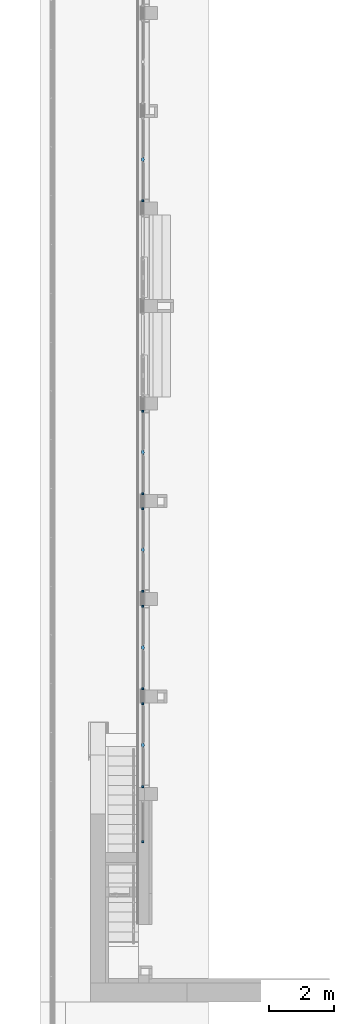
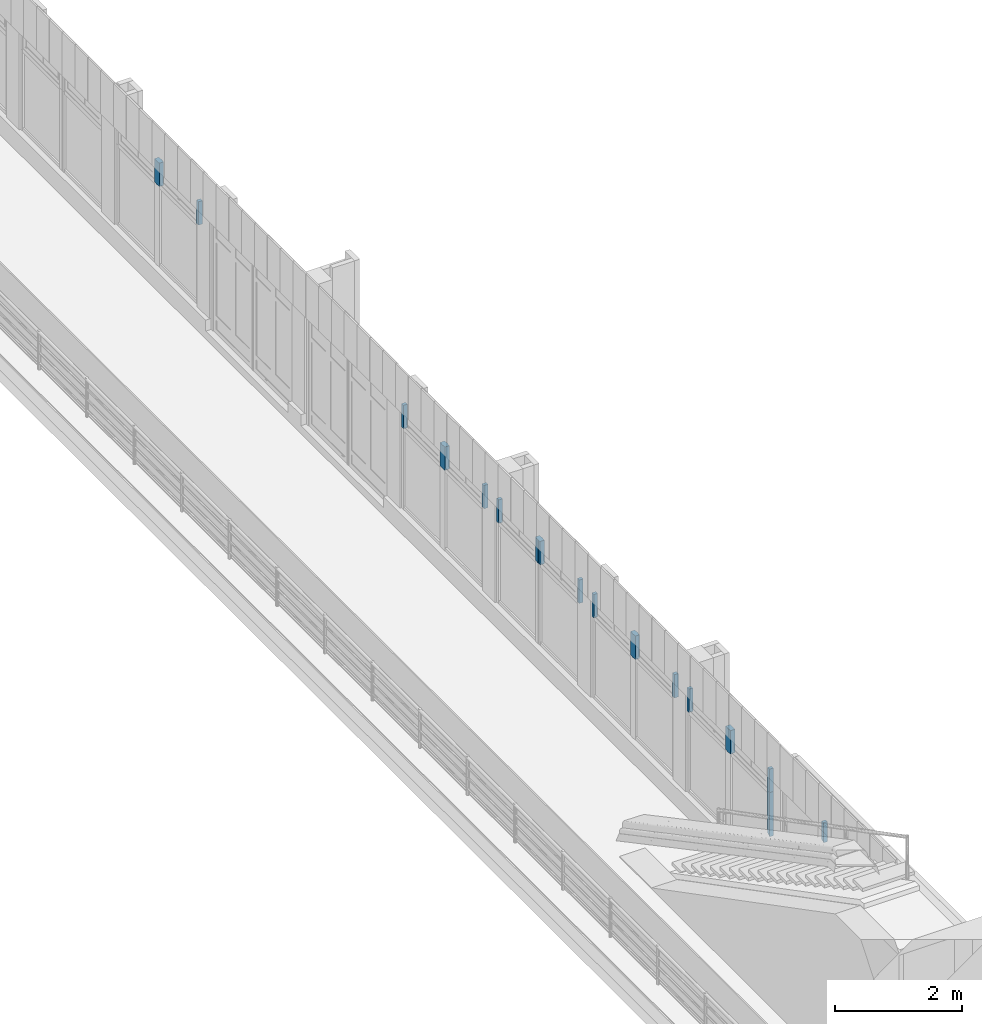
# One storey, part 5 of 16: 16 members, 6 elements without a shape of their own.
"""IFC2X3 building model written with IfcOpenShell, lengths in millimetres."""

from ifc_helpers import new_model, entity, si_unit, converted_unit, derived_unit, direction, frame, frame_2d, origin, place, context, subcontext, project, spatial, polyline, rectangle, outline, extrude, source, transform, mapped, material, type_object, type_shapes, element, aggregate, save


model = new_model("IFC2X3")

# Units and contexts
model_context = context("Model", 3, precision=0.01, world=origin(), true_north=direction((6.123031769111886e-17, 1.0)))
body_context = subcontext(model_context, "Body", "Model", "MODEL_VIEW")
ifc_project = project(units=[si_unit("LENGTHUNIT", "METRE", prefix="MILLI"), si_unit("AREAUNIT", "SQUARE_METRE"), si_unit("VOLUMEUNIT", "CUBIC_METRE"), converted_unit("PLANEANGLEUNIT", "DEGREE", entity("IfcPlaneAngleMeasure", 0.017453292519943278), si_unit("PLANEANGLEUNIT", "RADIAN"), dimensions=[0, 0, 0, 0, 0, 0, 0]), si_unit("MASSUNIT", "GRAM", prefix="KILO"), derived_unit("MASSDENSITYUNIT", [(si_unit("MASSUNIT", "GRAM", prefix="KILO"), 1), (si_unit("LENGTHUNIT", "METRE"), -3)]), derived_unit("IONCONCENTRATIONUNIT", [(si_unit("MASSUNIT", "GRAM", prefix="KILO"), 1), (si_unit("LENGTHUNIT", "METRE"), -3)]), derived_unit("MOMENTOFINERTIAUNIT", [(si_unit("LENGTHUNIT", "METRE"), 4)]), si_unit("TIMEUNIT", "SECOND"), si_unit("FREQUENCYUNIT", "HERTZ"), si_unit("THERMODYNAMICTEMPERATUREUNIT", "DEGREE_CELSIUS"), derived_unit("THERMALTRANSMITTANCEUNIT", [(si_unit("MASSUNIT", "GRAM", prefix="KILO"), 1), (si_unit("THERMODYNAMICTEMPERATUREUNIT", "KELVIN"), -1), (si_unit("TIMEUNIT", "SECOND"), -3)]), derived_unit("THERMALCONDUCTANCEUNIT", [(si_unit("MASSUNIT", "GRAM", prefix="KILO"), 1), (si_unit("THERMODYNAMICTEMPERATUREUNIT", "KELVIN"), -1), (si_unit("TIMEUNIT", "SECOND"), -3), (si_unit("LENGTHUNIT", "METRE"), 1)]), derived_unit("VOLUMETRICFLOWRATEUNIT", [(si_unit("LENGTHUNIT", "METRE", prefix="DECI"), 3), (si_unit("TIMEUNIT", "SECOND"), -1)]), derived_unit("MASSFLOWRATEUNIT", [(si_unit("MASSUNIT", "GRAM", prefix="KILO"), 1), (si_unit("TIMEUNIT", "SECOND"), -1)]), derived_unit("ROTATIONALFREQUENCYUNIT", [(si_unit("TIMEUNIT", "SECOND"), -1)]), si_unit("ELECTRICCURRENTUNIT", "AMPERE"), si_unit("ELECTRICVOLTAGEUNIT", "VOLT"), si_unit("POWERUNIT", "WATT"), si_unit("FORCEUNIT", "NEWTON", prefix="KILO"), si_unit("ILLUMINANCEUNIT", "LUX"), si_unit("LUMINOUSFLUXUNIT", "LUMEN"), si_unit("LUMINOUSINTENSITYUNIT", "CANDELA"), si_unit("ENERGYUNIT", "JOULE"), derived_unit("USERDEFINED", [(si_unit("MASSUNIT", "GRAM", prefix="KILO"), -1), (si_unit("LENGTHUNIT", "METRE"), -2), (si_unit("TIMEUNIT", "SECOND"), 3), (si_unit("LUMINOUSFLUXUNIT", "LUMEN"), 1)]), derived_unit("USERDEFINED", [(si_unit("MASSUNIT", "GRAM", prefix="KILO"), 1), (si_unit("TIMEUNIT", "SECOND"), -3), (si_unit("LENGTHUNIT", "METRE"), 3), (si_unit("ELECTRICCURRENTUNIT", "AMPERE"), -2)]), derived_unit("SOUNDPOWERUNIT", [(si_unit("MASSUNIT", "GRAM", prefix="KILO"), 1), (si_unit("TIMEUNIT", "SECOND"), -3), (si_unit("LENGTHUNIT", "METRE"), 2)]), derived_unit("SOUNDPRESSUREUNIT", [(si_unit("MASSUNIT", "GRAM", prefix="KILO"), 1), (si_unit("LENGTHUNIT", "METRE"), -1), (si_unit("TIMEUNIT", "SECOND"), -2)]), derived_unit("LINEARVELOCITYUNIT", [(si_unit("LENGTHUNIT", "METRE"), 1), (si_unit("TIMEUNIT", "SECOND"), -1)]), si_unit("PRESSUREUNIT", "PASCAL"), derived_unit("USERDEFINED", [(si_unit("MASSUNIT", "GRAM", prefix="KILO"), 1), (si_unit("LENGTHUNIT", "METRE"), -2), (si_unit("TIMEUNIT", "SECOND"), -2)]), derived_unit("LINEARFORCEUNIT", [(si_unit("MASSUNIT", "GRAM", prefix="KILO"), 1), (si_unit("TIMEUNIT", "SECOND"), -2)]), derived_unit("PLANARFORCEUNIT", [(si_unit("MASSUNIT", "GRAM", prefix="KILO"), 1), (si_unit("LENGTHUNIT", "METRE"), -1), (si_unit("TIMEUNIT", "SECOND"), -2)]), derived_unit("SPECIFICHEATCAPACITYUNIT", [(si_unit("THERMODYNAMICTEMPERATUREUNIT", "KELVIN"), -1), (si_unit("LENGTHUNIT", "METRE"), 2), (si_unit("TIMEUNIT", "SECOND"), -2)]), derived_unit("HEATFLUXDENSITYUNIT", [(si_unit("MASSUNIT", "GRAM", prefix="KILO"), 1), (si_unit("TIMEUNIT", "SECOND"), -3)]), derived_unit("HEATINGVALUEUNIT", [(si_unit("LENGTHUNIT", "METRE"), 2), (si_unit("TIMEUNIT", "SECOND"), -2)]), derived_unit("VAPORPERMEABILITYUNIT", [(si_unit("LENGTHUNIT", "METRE"), -1), (si_unit("TIMEUNIT", "SECOND"), 1)]), derived_unit("DYNAMICVISCOSITYUNIT", [(si_unit("MASSUNIT", "GRAM", prefix="KILO"), 1), (si_unit("TIMEUNIT", "SECOND"), -1), (si_unit("LENGTHUNIT", "METRE"), -1)]), derived_unit("THERMALEXPANSIONCOEFFICIENTUNIT", [(si_unit("THERMODYNAMICTEMPERATUREUNIT", "KELVIN"), -1)]), derived_unit("MODULUSOFELASTICITYUNIT", [(si_unit("MASSUNIT", "GRAM", prefix="KILO"), 1), (si_unit("LENGTHUNIT", "METRE"), -1), (si_unit("TIMEUNIT", "SECOND"), -2)]), derived_unit("ISOTHERMALMOISTURECAPACITYUNIT", [(si_unit("MASSUNIT", "GRAM", prefix="KILO"), -1), (si_unit("LENGTHUNIT", "METRE"), 3)]), derived_unit("MOISTUREDIFFUSIVITYUNIT", [(si_unit("TIMEUNIT", "SECOND"), -1), (si_unit("LENGTHUNIT", "METRE"), 2)]), derived_unit("MASSPERLENGTHUNIT", [(si_unit("MASSUNIT", "GRAM", prefix="KILO"), 1), (si_unit("LENGTHUNIT", "METRE"), -1)]), derived_unit("THERMALRESISTANCEUNIT", [(si_unit("MASSUNIT", "GRAM", prefix="KILO"), -1), (si_unit("TIMEUNIT", "SECOND"), 3), (si_unit("THERMODYNAMICTEMPERATUREUNIT", "KELVIN"), 1)]), derived_unit("ACCELERATIONUNIT", [(si_unit("LENGTHUNIT", "METRE"), 1), (si_unit("TIMEUNIT", "SECOND"), -2)]), derived_unit("ANGULARVELOCITYUNIT", [(si_unit("TIMEUNIT", "SECOND"), -1), (si_unit("PLANEANGLEUNIT", "RADIAN"), 1)]), derived_unit("LINEARSTIFFNESSUNIT", [(si_unit("MASSUNIT", "GRAM", prefix="KILO"), 1), (si_unit("TIMEUNIT", "SECOND"), -2)]), derived_unit("WARPINGCONSTANTUNIT", [(si_unit("LENGTHUNIT", "METRE"), 6)]), derived_unit("LINEARMOMENTUNIT", [(si_unit("MASSUNIT", "GRAM", prefix="KILO"), 1), (si_unit("LENGTHUNIT", "METRE"), 1), (si_unit("TIMEUNIT", "SECOND"), -2)]), derived_unit("TORQUEUNIT", [(si_unit("MASSUNIT", "GRAM", prefix="KILO"), 1), (si_unit("LENGTHUNIT", "METRE"), 2), (si_unit("TIMEUNIT", "SECOND"), -2)])], contexts=[model_context])

# Site, building, storey
site_placement = place(None, origin())
site = spatial("IfcSite", under=ifc_project, at=site_placement, Name="Default", CompositionType="ELEMENT")
building_placement = place(site_placement, origin())
building = spatial("IfcBuilding", under=site, at=building_placement, Name="Eesti Rahvusraamatukogu hoone renoveerimise projekteerimistööd", CompositionType="ELEMENT")
storey_placement = place(building_placement, frame((0.0, 0.0, 8250.000000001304)))
storey = spatial("IfcBuildingStorey", under=building, at=storey_placement, Name="3. korrus", CompositionType="ELEMENT", Elevation=8250.000000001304)

# Curtain wall, members
curtain_wall_type_1 = type_object("IfcCurtainWallType", Name="Curtain Wall:A-17", PredefinedType="NOTDEFINED")
curtain_wall_1_placement = place(storey_placement, frame((0.0, 0.0, -8250.000000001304)))
curtain_wall_1 = element("IfcCurtainWall", 1, at=curtain_wall_1_placement, inside=storey, type_object=curtain_wall_type_1, Name="Curtain Wall:A-17", ObjectType="Curtain Wall:A-17")
ifc_material = material(Name="LUMION_dark steel window frames")
member_type_1 = type_object("IfcMemberType", Name="Rectangular Mullion:NEW 150x90mm", PredefinedType="MULLION", material=ifc_material)
shared_shape_1 = source(origin(), body_context, "Body", "SweptSolid", [
    extrude(outline(polyline([(20.0, -40.0), (75.0, -40.0), (75.0, 40.0), (20.0, 40.0), (20.0, 45.0), (-20.0, 45.0), (-20.0, 40.0), (-75.0, 40.0), (-75.0, -40.0), (-20.0, -40.0), (-20.0, -45.0), (20.0, -45.0), (20.0, -40.0)])), frame((0.0, 0.0, -450.0), z_axis=(0.0, 0.0, 1.0), x_axis=(-1.0, 0.0, 0.0)), (0.0, 0.0, 1.0), 449.9999999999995),
])
type_shapes(member_type_1, [shared_shape_1])
member_1_placement = place(curtain_wall_1_placement, frame((-33635.0, 13890.0, 10400.000000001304), z_axis=(0.0, 0.0, -1.0), x_axis=(0.0, -1.0, 0.0)))
member_1 = element("IfcMember", 2, at=member_1_placement, type_object=member_type_1, material=ifc_material, Name="Rectangular Mullion:NEW 150x90mm", ObjectType="Rectangular Mullion:NEW 150x90mm", context=body_context, shape_type="MappedRepresentation", body=[
    mapped(shared_shape_1, transform((0.0, 0.0, 0.0), scale=1.0)),
])
member_type_2 = type_object("IfcMemberType", Name="Rectangular Mullion:NEW 60x70mm", PredefinedType="MULLION", material=ifc_material)
shared_shape_2 = source(origin(), body_context, "Body", "SweptSolid", [
    extrude(rectangle(XDim=60.0, YDim=70.0, at=frame_2d((0.0, 3.552713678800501e-15), x_axis=(1.0, 0.0))), frame((-30.0, 0.0, -450.0), z_axis=(0.0, 0.0, 1.0), x_axis=(-1.0, 0.0, 0.0)), (0.0, 0.0, 1.0), 449.9999999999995),
])
type_shapes(member_type_2, [shared_shape_2])
member_2_placement = place(curtain_wall_1_placement, frame((-33635.0, 12590.0, 10400.000000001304), z_axis=(0.0, 0.0, -1.0), x_axis=(0.0, -1.0, 0.0)))
member_2 = element("IfcMember", 3, at=member_2_placement, type_object=member_type_2, material=ifc_material, Name="Rectangular Mullion:NEW 60x70mm", ObjectType="Rectangular Mullion:NEW 60x70mm", context=body_context, shape_type="MappedRepresentation", body=[
    mapped(shared_shape_2, transform((0.0, 0.0, 0.0), scale=1.0)),
])
member_type_3 = type_object("IfcMemberType", Name="Rectangular Mullion:NEW 60x70mm", PredefinedType="MULLION", material=ifc_material)
shared_shape_3 = source(origin(), body_context, "Body", "SweptSolid", [
    extrude(outline(polyline([(-433.95941122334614, -30.0), (416.0405887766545, -30.0), (416.0405887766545, 30.0), (-398.121766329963, 30.0), (-433.95941122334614, -30.0)])), frame((-30.0, -35.0, -433.95941122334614), z_axis=(0.0, 1.0, 0.0), x_axis=(0.0, 0.0, -1.0)), (0.0, 0.0, 1.0), 69.99999999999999),
])
type_shapes(member_type_3, [shared_shape_3])
member_3_placement = place(curtain_wall_1_placement, frame((-33635.0, 12590.0, 9550.000000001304), z_axis=(0.0, 0.0, -1.0), x_axis=(0.0, -1.0, 0.0)))
member_3 = element("IfcMember", 4, at=member_3_placement, type_object=member_type_3, material=ifc_material, Name="Rectangular Mullion:NEW 60x70mm", ObjectType="Rectangular Mullion:NEW 60x70mm", context=body_context, shape_type="MappedRepresentation", body=[
    mapped(shared_shape_3, transform((0.0, 0.0, 0.0), scale=1.0)),
])
member_type_4 = type_object("IfcMemberType", Name="Rectangular Mullion:NEW 60x70mm", PredefinedType="MULLION", material=ifc_material)
shared_shape_4 = source(origin(), body_context, "Body", "SweptSolid", [
    extrude(rectangle(XDim=60.0, YDim=70.0, at=frame_2d((0.0, -3.552713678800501e-15), x_axis=(1.0, 0.0))), frame((-30.0, 0.0, -450.0), z_axis=(0.0, 0.0, 1.0), x_axis=(-1.0, 0.0, 0.0)), (0.0, 0.0, 1.0), 449.9999999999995),
])
type_shapes(member_type_4, [shared_shape_4])
member_4_placement = place(curtain_wall_1_placement, frame((-33635.0, 15190.0, 10850.000000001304), z_axis=(0.0, 0.0, 1.0), x_axis=(0.0, 1.0, 0.0)))
member_4 = element("IfcMember", 5, at=member_4_placement, type_object=member_type_4, material=ifc_material, Name="Rectangular Mullion:NEW 60x70mm", ObjectType="Rectangular Mullion:NEW 60x70mm", context=body_context, shape_type="MappedRepresentation", body=[
    mapped(shared_shape_4, transform((0.0, 0.0, 0.0), scale=1.0)),
])
aggregate(curtain_wall_1, [member_1, member_2, member_3, member_4])

# Curtain wall, member
curtain_wall_type_2 = type_object("IfcCurtainWallType", Name="Curtain Wall:A-18", PredefinedType="NOTDEFINED")
curtain_wall_2_placement = place(storey_placement, frame((0.0, 0.0, -8250.000000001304)))
curtain_wall_2 = element("IfcCurtainWall", 6, at=curtain_wall_2_placement, inside=storey, type_object=curtain_wall_type_2, Name="Curtain Wall:A-18", ObjectType="Curtain Wall:A-18")
member_type_5 = type_object("IfcMemberType", Name="Rectangular Mullion:NEW 60x70mm", PredefinedType="MULLION", material=ifc_material)
shared_shape_5 = source(origin(), body_context, "Body", "SweptSolid", [
    extrude(outline(polyline([(-201.2671035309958, -30.0), (183.34828108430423, -30.0), (183.34828108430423, 30.0), (-165.42945863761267, 30.0), (-201.2671035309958, -30.0)])), frame((-30.0, -35.0, -201.2671035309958), z_axis=(0.0, 1.0, 0.0), x_axis=(0.0, 0.0, -1.0)), (0.0, 0.0, 1.0), 70.00000000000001),
])
type_shapes(member_type_5, [shared_shape_5])
member_5_placement = place(curtain_wall_2_placement, frame((-33635.0, 10890.0, 10465.384615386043), z_axis=(0.0, 0.0, -1.0), x_axis=(0.0, -1.0, 0.0)))
member_5 = element("IfcMember", 7, at=member_5_placement, type_object=member_type_5, material=ifc_material, Name="Rectangular Mullion:NEW 60x70mm", ObjectType="Rectangular Mullion:NEW 60x70mm", context=body_context, shape_type="MappedRepresentation", body=[
    mapped(shared_shape_5, transform((0.0, 0.0, 0.0), scale=1.0)),
])
aggregate(curtain_wall_2, [member_5])

curtain_wall_type_3 = type_object("IfcCurtainWallType", Name="Curtain Wall:A-16", PredefinedType="NOTDEFINED")
curtain_wall_3_placement = place(storey_placement, frame((0.0, 0.0, -8250.000000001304)))
curtain_wall_3 = element("IfcCurtainWall", 8, at=curtain_wall_3_placement, inside=storey, type_object=curtain_wall_type_3, Name="Curtain Wall:A-16", ObjectType="Curtain Wall:A-16")
member_type_6 = type_object("IfcMemberType", Name="Rectangular Mullion:NEW 60x70mm", PredefinedType="MULLION", material=ifc_material)
shared_shape_6 = source(origin(), body_context, "Body", "SweptSolid", [
    extrude(rectangle(XDim=60.0, YDim=70.0, at=frame_2d((0.0, 3.552713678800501e-15), x_axis=(1.0, 0.0))), frame((-30.0, 0.0, -450.0), z_axis=(0.0, 0.0, 1.0), x_axis=(-1.0, 0.0, 0.0)), (0.0, 0.0, 1.0), 449.9999999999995),
])
type_shapes(member_type_6, [shared_shape_6])
member_6_placement = place(curtain_wall_3_placement, frame((-33635.0, 24190.0, 10850.000000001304), z_axis=(0.0, 0.0, 1.0), x_axis=(0.0, 1.0, 0.0)))
member_6 = element("IfcMember", 9, at=member_6_placement, type_object=member_type_6, material=ifc_material, Name="Rectangular Mullion:NEW 60x70mm", ObjectType="Rectangular Mullion:NEW 60x70mm", context=body_context, shape_type="MappedRepresentation", body=[
    mapped(shared_shape_6, transform((0.0, 0.0, 0.0), scale=1.0)),
])

curtain_wall_4_placement = place(storey_placement, frame((0.0, 0.0, -8250.000000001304)))
curtain_wall_4 = element("IfcCurtainWall", 10, at=curtain_wall_4_placement, inside=storey, type_object=curtain_wall_type_3, Name="Curtain Wall:A-16", ObjectType="Curtain Wall:A-16")
member_7_placement = place(curtain_wall_4_placement, frame((-33635.0, 21190.0, 10850.000000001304), z_axis=(0.0, 0.0, 1.0), x_axis=(0.0, 1.0, 0.0)))
member_7 = element("IfcMember", 11, at=member_7_placement, type_object=member_type_6, material=ifc_material, Name="Rectangular Mullion:NEW 60x70mm", ObjectType="Rectangular Mullion:NEW 60x70mm", context=body_context, shape_type="MappedRepresentation", body=[
    mapped(shared_shape_6, transform((0.0, 0.0, 0.0), scale=1.0)),
])

curtain_wall_5_placement = place(storey_placement, frame((0.0, 0.0, -8250.000000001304)))
curtain_wall_5 = element("IfcCurtainWall", 12, at=curtain_wall_5_placement, inside=storey, type_object=curtain_wall_type_3, Name="Curtain Wall:A-16", ObjectType="Curtain Wall:A-16")
member_8_placement = place(curtain_wall_5_placement, frame((-33635.0, 18190.0, 10850.000000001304), z_axis=(0.0, 0.0, 1.0), x_axis=(0.0, 1.0, 0.0)))
member_8 = element("IfcMember", 13, at=member_8_placement, type_object=member_type_6, material=ifc_material, Name="Rectangular Mullion:NEW 60x70mm", ObjectType="Rectangular Mullion:NEW 60x70mm", context=body_context, shape_type="MappedRepresentation", body=[
    mapped(shared_shape_6, transform((0.0, 0.0, 0.0), scale=1.0)),
])

# Member
member_type_7 = type_object("IfcMemberType", Name="Rectangular Mullion:NEW 60x70mm", PredefinedType="MULLION", material=ifc_material)
shared_shape_7 = source(origin(), body_context, "Body", "SweptSolid", [
    extrude(rectangle(XDim=60.0, YDim=70.0, at=frame_2d((0.0, 3.552713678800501e-15), x_axis=(1.0, 0.0))), frame((-30.0, 0.0, -450.0), z_axis=(0.0, 0.0, 1.0), x_axis=(-1.0, 0.0, 0.0)), (0.0, 0.0, 1.0), 449.9999999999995),
])
type_shapes(member_type_7, [shared_shape_7])
member_9_placement = place(curtain_wall_3_placement, frame((-33635.0, 21590.0, 10400.000000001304), z_axis=(0.0, 0.0, -1.0), x_axis=(0.0, -1.0, 0.0)))
member_9 = element("IfcMember", 14, at=member_9_placement, type_object=member_type_7, material=ifc_material, Name="Rectangular Mullion:NEW 60x70mm", ObjectType="Rectangular Mullion:NEW 60x70mm", context=body_context, shape_type="MappedRepresentation", body=[
    mapped(shared_shape_7, transform((0.0, 0.0, 0.0), scale=1.0)),
])

member_10_placement = place(curtain_wall_4_placement, frame((-33635.0, 18590.0, 10400.000000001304), z_axis=(0.0, 0.0, -1.0), x_axis=(0.0, -1.0, 0.0)))
member_10 = element("IfcMember", 15, at=member_10_placement, type_object=member_type_7, material=ifc_material, Name="Rectangular Mullion:NEW 60x70mm", ObjectType="Rectangular Mullion:NEW 60x70mm", context=body_context, shape_type="MappedRepresentation", body=[
    mapped(shared_shape_7, transform((0.0, 0.0, 0.0), scale=1.0)),
])

member_11_placement = place(curtain_wall_5_placement, frame((-33635.0, 15590.0, 10400.000000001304), z_axis=(0.0, 0.0, -1.0), x_axis=(0.0, -1.0, 0.0)))
member_11 = element("IfcMember", 16, at=member_11_placement, type_object=member_type_7, material=ifc_material, Name="Rectangular Mullion:NEW 60x70mm", ObjectType="Rectangular Mullion:NEW 60x70mm", context=body_context, shape_type="MappedRepresentation", body=[
    mapped(shared_shape_7, transform((0.0, 0.0, 0.0), scale=1.0)),
])

member_type_8 = type_object("IfcMemberType", Name="Rectangular Mullion:NEW 150x90mm", PredefinedType="MULLION", material=ifc_material)
shared_shape_8 = source(origin(), body_context, "Body", "SweptSolid", [
    extrude(outline(polyline([(20.0, -40.0), (75.0, -40.0), (75.0, 40.0), (20.0, 40.0), (20.0, 45.0), (-20.0, 45.0), (-20.0, 40.0), (-75.0, 40.0), (-75.0, -40.0), (-20.0, -40.0), (-20.0, -45.0), (20.0, -45.0), (20.0, -40.0)])), frame((0.0, 0.0, -450.0), z_axis=(0.0, 0.0, 1.0), x_axis=(-1.0, 0.0, 0.0)), (0.0, 0.0, 1.0), 449.9999999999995),
])
type_shapes(member_type_8, [shared_shape_8])
member_12_placement = place(curtain_wall_3_placement, frame((-33635.0, 22890.0, 10400.000000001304), z_axis=(0.0, 0.0, -1.0), x_axis=(0.0, -1.0, 0.0)))
member_12 = element("IfcMember", 17, at=member_12_placement, type_object=member_type_8, material=ifc_material, Name="Rectangular Mullion:NEW 150x90mm", ObjectType="Rectangular Mullion:NEW 150x90mm", context=body_context, shape_type="MappedRepresentation", body=[
    mapped(shared_shape_8, transform((0.0, 0.0, 0.0), scale=1.0)),
])

aggregate(curtain_wall_3, [member_6, member_9, member_12])

member_13_placement = place(curtain_wall_4_placement, frame((-33635.0, 19890.0, 10400.000000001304), z_axis=(0.0, 0.0, -1.0), x_axis=(0.0, -1.0, 0.0)))
member_13 = element("IfcMember", 18, at=member_13_placement, type_object=member_type_8, material=ifc_material, Name="Rectangular Mullion:NEW 150x90mm", ObjectType="Rectangular Mullion:NEW 150x90mm", context=body_context, shape_type="MappedRepresentation", body=[
    mapped(shared_shape_8, transform((0.0, 0.0, 0.0), scale=1.0)),
])

aggregate(curtain_wall_4, [member_7, member_10, member_13])

member_14_placement = place(curtain_wall_5_placement, frame((-33635.0, 16890.0, 10400.000000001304), z_axis=(0.0, 0.0, -1.0), x_axis=(0.0, -1.0, 0.0)))
member_14 = element("IfcMember", 19, at=member_14_placement, type_object=member_type_8, material=ifc_material, Name="Rectangular Mullion:NEW 150x90mm", ObjectType="Rectangular Mullion:NEW 150x90mm", context=body_context, shape_type="MappedRepresentation", body=[
    mapped(shared_shape_8, transform((0.0, 0.0, 0.0), scale=1.0)),
])

aggregate(curtain_wall_5, [member_8, member_11, member_14])

# Curtain wall, members
curtain_wall_6_placement = place(storey_placement, frame((0.0, 0.0, -8250.000000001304)))
curtain_wall_6 = element("IfcCurtainWall", 20, at=curtain_wall_6_placement, inside=storey, type_object=curtain_wall_type_3, Name="Curtain Wall:A-16", ObjectType="Curtain Wall:A-16")
member_type_9 = type_object("IfcMemberType", Name="Rectangular Mullion:NEW 60x70mm", PredefinedType="MULLION", material=ifc_material)
shared_shape_9 = source(origin(), body_context, "Body", "SweptSolid", [
    extrude(rectangle(XDim=60.0, YDim=70.0, at=frame_2d((0.0, 3.552713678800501e-15), x_axis=(1.0, 0.0))), frame((-30.0, 0.0, -450.0), z_axis=(0.0, 0.0, 1.0), x_axis=(-1.0, 0.0, 0.0)), (0.0, 0.0, 1.0), 449.9999999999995),
])
type_shapes(member_type_9, [shared_shape_9])
member_15_placement = place(curtain_wall_6_placement, frame((-33635.0, 30590.0, 10850.000000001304), z_axis=(0.0, 0.0, 1.0), x_axis=(0.0, -1.0, 0.0)))
member_15 = element("IfcMember", 21, at=member_15_placement, type_object=member_type_9, material=ifc_material, Name="Rectangular Mullion:NEW 60x70mm", ObjectType="Rectangular Mullion:NEW 60x70mm", context=body_context, shape_type="MappedRepresentation", body=[
    mapped(shared_shape_9, transform((0.0, 0.0, 0.0), scale=1.0)),
])
member_type_10 = type_object("IfcMemberType", Name="Rectangular Mullion:NEW 150x90mm", PredefinedType="MULLION", material=ifc_material)
shared_shape_10 = source(origin(), body_context, "Body", "SweptSolid", [
    extrude(outline(polyline([(40.0, -20.0), (45.0, -20.0), (45.0, 20.0), (40.0, 20.0), (40.0, 75.0), (-40.0, 75.0), (-40.0, 20.0), (-45.0, 20.0), (-45.0, -20.0), (-40.0, -20.0), (-40.0, -75.0), (40.0, -75.0), (40.0, -20.0)])), frame((0.0, 0.0, -450.0), z_axis=(0.0, 0.0, 1.0), x_axis=(0.0, -1.0, 0.0)), (0.0, 0.0, 1.0), 449.9999999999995),
])
type_shapes(member_type_10, [shared_shape_10])
member_16_placement = place(curtain_wall_6_placement, frame((-33635.0, 31890.0, 10400.000000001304), z_axis=(0.0, 0.0, -1.0), x_axis=(0.0, 1.0, 0.0)))
member_16 = element("IfcMember", 22, at=member_16_placement, type_object=member_type_10, material=ifc_material, Name="Rectangular Mullion:NEW 150x90mm", ObjectType="Rectangular Mullion:NEW 150x90mm", context=body_context, shape_type="MappedRepresentation", body=[
    mapped(shared_shape_10, transform((0.0, 0.0, 0.0), scale=1.0)),
])
aggregate(curtain_wall_6, [member_15, member_16])

save(model, "model.ifc")
